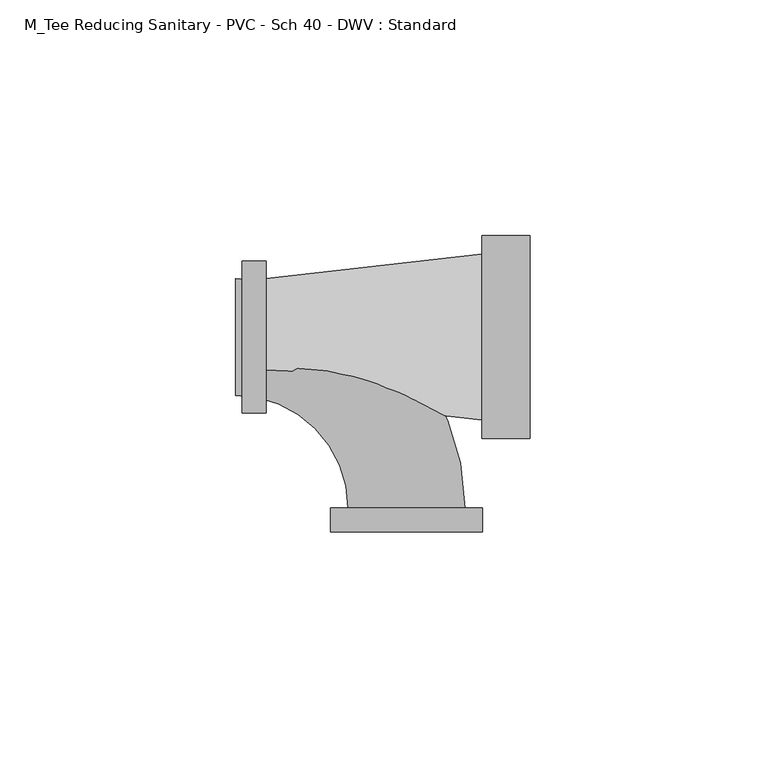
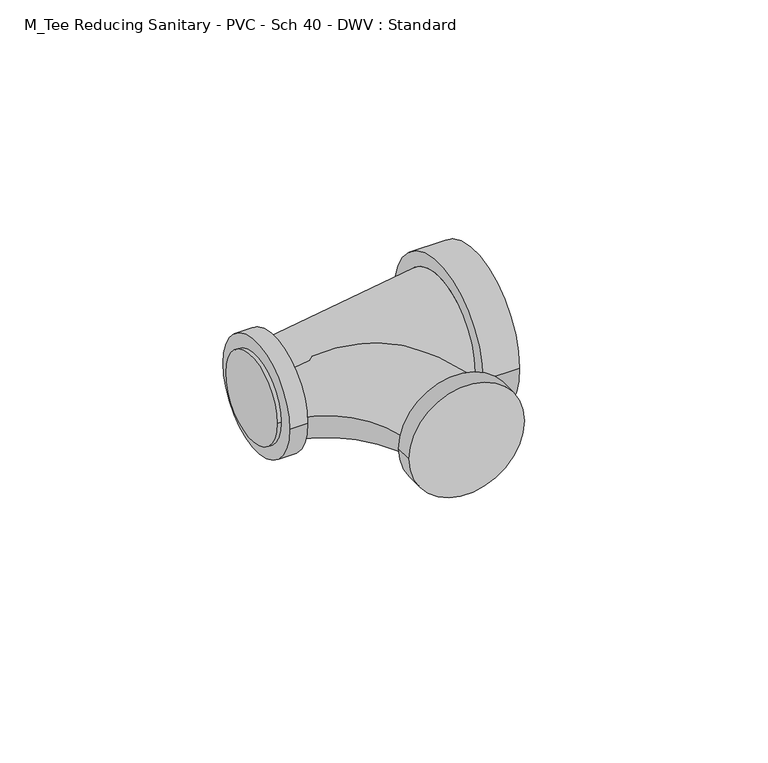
"""IFC4 building model written with IfcOpenShell, lengths in millimetres: pipe fitting geometry, M_Tee Reducing Sanitary - PVC - Sch 40 - DWV : Standard."""

from ifc_helpers import new_model, si_unit, point, frame, origin, place, context, project, spatial, polyline, circle_curve, ellipse_curve, trimmed, source, transform, mapped, element, save
from ifc_brep_helpers import plane_surface, cylinder_surface, revolved_surface, advanced_brep


def m_tee_reducing_sanitary_pvc_sch_40_dwv_standard_3942c6c6(model_context):
    return source(origin(), model_context, "Body", "AdvancedBrep", [
        advanced_brep(
        [(16.001625, -21.4871094, 0.0), (16.001625, 21.4871094, 0.0), (16.001625, -17.5640625, 0.0), (16.001625, 17.5640625, 0.0), (26.1719375, -21.4871094, 0.0), (26.1719375, 21.4871094, 0.0), (-29.7804062, 12.3640625, 0.0), (-29.7804062, -12.3640625, 0.0), (-34.8507187, -16.0871094, 0.0), (-34.8507187, 16.0871094, 0.0), (-29.7804062, -16.0871094, 0.0), (-29.7804062, 16.0871094, 0.0)],
        [
            (0, 1, circle_curve(frame((16.001625, 0.0, 0.0), z_axis=(-1.0, 0.0, 0.0), x_axis=(0.0, 1.0, 0.0)), 21.4871094)),
            (1, 0, circle_curve(frame((16.001625, 0.0, 0.0), z_axis=(-1.0, 0.0, 0.0), x_axis=(0.0, 1.0, 0.0)), 21.4871094)),
            (2, 3, circle_curve(frame((16.001625, 0.0, 0.0), z_axis=(1.0, 0.0, 0.0), x_axis=(0.0, -1.0, 0.0)), 17.5640625)),
            (3, 2, circle_curve(frame((16.001625, 0.0, 0.0), z_axis=(1.0, 0.0, 0.0), x_axis=(0.0, 1.0, 0.0)), 17.5640625)),
            (4, 5, circle_curve(frame((26.1719375, 0.0, 0.0), z_axis=(1.0, 0.0, 0.0), x_axis=(0.0, 1.0, 0.0)), 21.4871094)),
            (5, 4, circle_curve(frame((26.1719375, 0.0, 0.0), z_axis=(1.0, 0.0, 0.0), x_axis=(0.0, 1.0, 0.0)), 21.4871094)),
            (0, 4),
            (5, 1),
            (6, 3),
            (2, 7),
            (7, 6, circle_curve(frame((-29.7804062, 0.0, 0.0), z_axis=(1.0, 0.0, 0.0), x_axis=(0.0, -1.0, 0.0)), 12.3640625)),
            (6, 7, circle_curve(frame((-29.7804062, 0.0, 0.0), z_axis=(1.0, 0.0, 0.0), x_axis=(0.0, 1.0, 0.0)), 12.3640625)),
            (8, 9, circle_curve(frame((-34.8507187, 0.0, 0.0), z_axis=(-1.0, 0.0, 0.0), x_axis=(0.0, 1.0, 0.0)), 16.0871094)),
            (9, 8, circle_curve(frame((-34.8507187, 0.0, 0.0), z_axis=(-1.0, 0.0, 0.0), x_axis=(0.0, 1.0, 0.0)), 16.0871094)),
            (10, 11, circle_curve(frame((-29.7804062, 0.0, 0.0), z_axis=(1.0, 0.0, 0.0), x_axis=(0.0, 1.0, 0.0)), 16.0871094)),
            (11, 10, circle_curve(frame((-29.7804062, 0.0, 0.0), z_axis=(1.0, 0.0, 0.0), x_axis=(0.0, 1.0, 0.0)), 16.0871094)),
            (8, 10),
            (11, 9),
        ],
        [
            plane_surface(frame((16.001625, 0.0, 0.0), z_axis=(-1.0, 0.0, 0.0), x_axis=(0.0, 0.0, 1.0))),
            plane_surface(frame((26.1719375, 0.0, 0.0), z_axis=(1.0, 0.0, 0.0), x_axis=(0.0, 0.0, 1.0))),
            cylinder_surface(frame((16.001625, 0.0, 0.0), z_axis=(-1.0, 0.0, 0.0), x_axis=(0.0, 1.0, 0.0)), 21.4871094),
            revolved_surface(polyline([(-29.7804062, 12.364062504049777, 0.0), (16.00162499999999, 17.5640625, 0.0)]), (-138.63654, 0.0, 0.0), (1.0, 0.0, 0.0)),
            plane_surface(frame((-34.8507187, 0.0, 0.0), z_axis=(-1.0, 0.0, 0.0), x_axis=(0.0, 0.0, 1.0))),
            plane_surface(frame((-29.7804062, 0.0, 0.0), z_axis=(1.0, 0.0, 0.0), x_axis=(0.0, 0.0, 1.0))),
            cylinder_surface(frame((-34.8507187, 0.0, 0.0), z_axis=(-1.0, 0.0, 0.0), x_axis=(0.0, 1.0, 0.0)), 16.0871094),
        ],
        [
            (0, [[1, 2], [3, 4]]),
            (1, [[5, 6]]),
            (2, [[-1, 7, -6, 8]]),
            (2, [[-2, -8, -5, -7]]),
            (3, [[9, -3, 10, 11]]),
            (3, [[-9, 12, -10, -4]]),
            (4, [[13, 14]]),
            (5, [[15, 16], [-11, -12]]),
            (6, [[-13, 17, -16, 18]]),
            (6, [[-14, -18, -15, -17]]),
        ],
    ),
        advanced_brep(
        [(-16.0871094, -36.1976563, 0.0), (16.0871094, -36.1976563, 0.0), (12.3640625, -36.1976563, 0.0), (-12.3640625, -36.1976563, 0.0), (-16.0871094, -41.2679688, 0.0), (16.0871094, -41.2679688, 0.0), (-36.1976562, -12.3640625, 0.0), (-36.1976562, 12.3640625, 0.0)],
        [
            (0, 1, circle_curve(frame((0.0, -36.1976563, 0.0), z_axis=(0.0, 1.0, 0.0), x_axis=(1.0, 0.0, 0.0)), 16.0871094)),
            (1, 0, circle_curve(frame((0.0, -36.1976563, 0.0), z_axis=(0.0, 1.0, 0.0), x_axis=(1.0, 0.0, 0.0)), 16.0871094)),
            (2, 3, circle_curve(frame((0.0, -36.1976563, 0.0), z_axis=(0.0, -1.0, 0.0), x_axis=(1.0, 0.0, 0.0)), 12.3640625)),
            (3, 2, circle_curve(frame((0.0, -36.1976563, 0.0), z_axis=(0.0, -1.0, 0.0), x_axis=(1.0, 0.0, 0.0)), 12.3640625)),
            (4, 5, circle_curve(frame((0.0, -41.2679688, 0.0), z_axis=(0.0, -1.0, 0.0), x_axis=(1.0, 0.0, 0.0)), 16.0871094)),
            (5, 4, circle_curve(frame((0.0, -41.2679688, 0.0), z_axis=(0.0, -1.0, 0.0), x_axis=(1.0, 0.0, 0.0)), 16.0871094)),
            (0, 4),
            (5, 1),
            (6, 7, circle_curve(frame((-36.1976562, 0.0, 0.0), z_axis=(-1.0, 0.0, 0.0), x_axis=(0.0, 1.0, 0.0)), 12.3640625)),
            (7, 6, circle_curve(frame((-36.1976562, 0.0, 0.0), z_axis=(-1.0, 0.0, 0.0), x_axis=(0.0, 1.0, 0.0)), 12.3640625)),
            (6, 3, circle_curve(frame((-36.1976562, -36.1976563, 0.0), z_axis=(0.0, 0.0, -1.0), x_axis=(0.0, 1.0, 0.0)), 23.8335938)),
            (2, 7, circle_curve(frame((-36.1976562, -36.1976563, 0.0), z_axis=(0.0, 0.0, 1.0), x_axis=(0.0, 1.0, 0.0)), 48.5617188)),
        ],
        [
            plane_surface(frame((0.0, -36.1976563, 0.0), z_axis=(0.0, 1.0, 0.0), x_axis=(0.0, 0.0, 1.0))),
            plane_surface(frame((0.0, -41.2679688, 0.0), z_axis=(0.0, -1.0, 0.0), x_axis=(0.0, 0.0, 1.0))),
            cylinder_surface(frame((0.0, -36.1976563, 0.0), z_axis=(0.0, 1.0, 0.0), x_axis=(1.0, 0.0, 0.0)), 16.0871094),
            plane_surface(frame((-36.1976562, 0.0, 0.0), z_axis=(-1.0, 0.0, 0.0), x_axis=(0.0, 0.0, 1.0))),
            revolved_surface(trimmed(ellipse_curve(frame((-36.1976562, 0.0, 0.0), z_axis=(-1.0, 0.0, 0.0), x_axis=(0.0, 1.0, 0.0)), 12.3640625, 12.3640625), [point((-36.1976562, -12.3640625, 0.0))], [point((-36.1976562, 12.3640625, 0.0))], True, "CARTESIAN"), (-36.1976562, -36.1976563, 0.0), (0.0, 0.0, -1.0)),
            revolved_surface(trimmed(ellipse_curve(frame((-36.1976562, 0.0, 0.0), z_axis=(-1.0, 0.0, 0.0), x_axis=(0.0, 1.0, 0.0)), 12.3640625, 12.3640625), [point((-36.1976562, 12.3640625, 0.0))], [point((-36.1976562, -12.3640625, 0.0))], True, "CARTESIAN"), (-36.1976562, -36.1976563, 0.0), (0.0, 0.0, -1.0)),
        ],
        [
            (0, [[1, 2], [3, 4]]),
            (1, [[5, 6]]),
            (2, [[-1, 7, -6, 8]]),
            (2, [[-2, -8, -5, -7]]),
            (3, [[9, 10]]),
            (4, [[-9, 11, -3, 12]]),
            (5, [[-10, -12, -4, -11]]),
        ],
    ),
    ])


if __name__ == "__main__":
    model = new_model("IFC4")
    model_context = context("Model", 3, world=origin())
    ifc_project = project(units=[si_unit("LENGTHUNIT", "METRE", prefix="MILLI")], contexts=[model_context])
    site = spatial("IfcSite", under=ifc_project)
    building = spatial("IfcBuilding", under=site)
    placement = place(None, origin())
    m_tee_reducing_sanitary_pvc_sch_40_dwv_standard_shape = m_tee_reducing_sanitary_pvc_sch_40_dwv_standard_3942c6c6(model_context)
    element("IfcPipeFitting", 1, ObjectType="M_Tee Reducing Sanitary - PVC - Sch 40 - DWV : Standard", at=placement, inside=building, context=model_context, shape_type="MappedRepresentation", body=[
        mapped(m_tee_reducing_sanitary_pvc_sch_40_dwv_standard_shape, transform((0.0, 0.0, 0.0), x_axis=(1.0, 0.0, 0.0), y_axis=(0.0, 1.0, 0.0), z_axis=(0.0, 0.0, 1.0))),
    ])
    save(model, "model.ifc")
